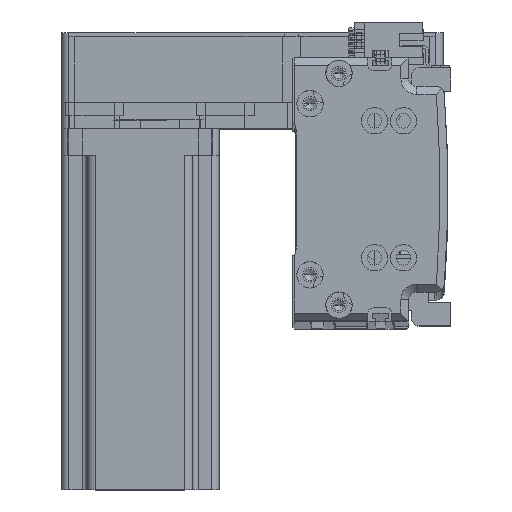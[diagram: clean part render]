
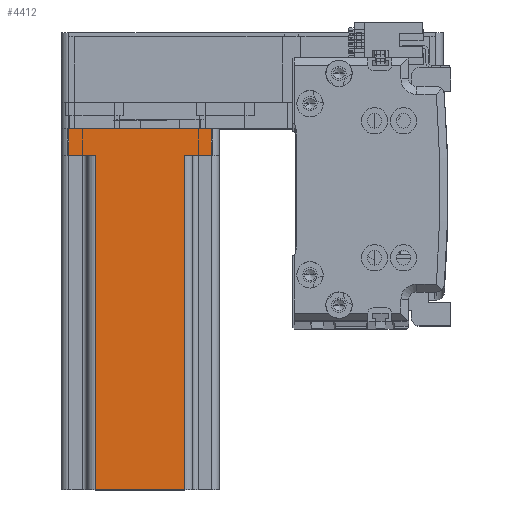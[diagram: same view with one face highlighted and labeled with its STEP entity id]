
A CAD part, top view. The second image highlights one B-rep face of the part: STEP entity #4412.
In plain terms, the highlighted planar face has unit normal (0, 0, 1) as drawn and (0, -1, 0) by its records, which use the part's own axes.
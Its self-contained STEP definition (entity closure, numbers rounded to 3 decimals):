
#763 = CARTESIAN_POINT ( 'NONE',  ( -17., -30., 137. ) ) ;
#2656 = EDGE_CURVE ( 'NONE', #44535, #52674, #14063, .T. ) ;
#4194 = VECTOR ( 'NONE', #46450, 1000. ) ;
#4412 = ADVANCED_FACE ( 'NONE', ( #44047 ), #26658, .F. ) ;
#4642 = VERTEX_POINT ( 'NONE', #53106 ) ;
#4732 = ORIENTED_EDGE ( 'NONE', *, *, #31838, .F. ) ;
#4760 = AXIS2_PLACEMENT_3D ( 'NONE', #51003, #22036, #55848 ) ;
#5074 = EDGE_CURVE ( 'NONE', #4642, #44535, #47665, .T. ) ;
#5661 = DIRECTION ( 'NONE',  ( 0., 0., -1. ) ) ;
#7653 = CARTESIAN_POINT ( 'NONE',  ( -20., -30., 10. ) ) ;
#8013 = LINE ( 'NONE', #40762, #29259 ) ;
#8069 = EDGE_CURVE ( 'NONE', #61329, #21873, #45069, .T. ) ;
#10505 = VECTOR ( 'NONE', #32473, 1000. ) ;
#11568 = ORIENTED_EDGE ( 'NONE', *, *, #55416, .T. ) ;
#11987 = ORIENTED_EDGE ( 'NONE', *, *, #24000, .T. ) ;
#12437 = VERTEX_POINT ( 'NONE', #50322 ) ;
#14063 = LINE ( 'NONE', #16575, #38249 ) ;
#15661 = LINE ( 'NONE', #7653, #4194 ) ;
#16368 = DIRECTION ( 'NONE',  ( 0., 0., 1. ) ) ;
#16575 = CARTESIAN_POINT ( 'NONE',  ( 27., -30., 137. ) ) ;
#16630 = ORIENTED_EDGE ( 'NONE', *, *, #8069, .T. ) ;
#18425 = ORIENTED_EDGE ( 'NONE', *, *, #2656, .T. ) ;
#19082 = VERTEX_POINT ( 'NONE', #29153 ) ;
#21751 = DIRECTION ( 'NONE',  ( -1., 0., 0. ) ) ;
#21873 = VERTEX_POINT ( 'NONE', #28386 ) ;
#22036 = DIRECTION ( 'NONE',  ( 0., 1., 0. ) ) ;
#22400 = DIRECTION ( 'NONE',  ( 0., 0., 1. ) ) ;
#23294 = LINE ( 'NONE', #36730, #34623 ) ;
#24000 = EDGE_CURVE ( 'NONE', #52674, #12437, #8013, .T. ) ;
#24012 = LINE ( 'NONE', #32421, #48259 ) ;
#26088 = ORIENTED_EDGE ( 'NONE', *, *, #5074, .T. ) ;
#26320 = CARTESIAN_POINT ( 'NONE',  ( -17., -30., 137. ) ) ;
#26658 = PLANE ( 'NONE',  #4760 ) ;
#28386 = CARTESIAN_POINT ( 'NONE',  ( -17., -30., 10. ) ) ;
#29153 = CARTESIAN_POINT ( 'NONE',  ( 17., -30., 137. ) ) ;
#29259 = VECTOR ( 'NONE', #21751, 1000. ) ;
#29828 = VERTEX_POINT ( 'NONE', #53189 ) ;
#31617 = CARTESIAN_POINT ( 'NONE',  ( 30., -30., 137. ) ) ;
#31838 = EDGE_CURVE ( 'NONE', #61329, #19082, #61820, .T. ) ;
#32421 = CARTESIAN_POINT ( 'NONE',  ( -27., -30., 137. ) ) ;
#32473 = DIRECTION ( 'NONE',  ( 1., 0., 0. ) ) ;
#34623 = VECTOR ( 'NONE', #22400, 1000. ) ;
#36070 = VECTOR ( 'NONE', #60643, 1000. ) ;
#36730 = CARTESIAN_POINT ( 'NONE',  ( 17., -30., 137. ) ) ;
#37563 = CARTESIAN_POINT ( 'NONE',  ( 30., -30., 0. ) ) ;
#38249 = VECTOR ( 'NONE', #16368, 1000. ) ;
#40762 = CARTESIAN_POINT ( 'NONE',  ( 20., -30., 10. ) ) ;
#42551 = DIRECTION ( 'NONE',  ( 0., 0., -1. ) ) ;
#44047 = FACE_OUTER_BOUND ( 'NONE', #47689, .T. ) ;
#44535 = VERTEX_POINT ( 'NONE', #51994 ) ;
#45069 = LINE ( 'NONE', #763, #57972 ) ;
#45127 = EDGE_CURVE ( 'NONE', #12437, #19082, #23294, .T. ) ;
#46450 = DIRECTION ( 'NONE',  ( 1., 0., 0. ) ) ;
#47665 = LINE ( 'NONE', #37563, #10505 ) ;
#47689 = EDGE_LOOP ( 'NONE', ( #4732, #16630, #58927, #11568, #26088, #18425, #11987, #56395 ) ) ;
#48259 = VECTOR ( 'NONE', #42551, 1000. ) ;
#50322 = CARTESIAN_POINT ( 'NONE',  ( 17., -30., 10. ) ) ;
#51003 = CARTESIAN_POINT ( 'NONE',  ( 30., -30., 137. ) ) ;
#51994 = CARTESIAN_POINT ( 'NONE',  ( 27., -30., 0. ) ) ;
#52476 = EDGE_CURVE ( 'NONE', #29828, #21873, #15661, .T. ) ;
#52674 = VERTEX_POINT ( 'NONE', #57235 ) ;
#53106 = CARTESIAN_POINT ( 'NONE',  ( -27., -30., 0. ) ) ;
#53189 = CARTESIAN_POINT ( 'NONE',  ( -27., -30., 10. ) ) ;
#55416 = EDGE_CURVE ( 'NONE', #29828, #4642, #24012, .T. ) ;
#55848 = DIRECTION ( 'NONE',  ( -1., 0., 0. ) ) ;
#56395 = ORIENTED_EDGE ( 'NONE', *, *, #45127, .T. ) ;
#57235 = CARTESIAN_POINT ( 'NONE',  ( 27., -30., 10. ) ) ;
#57972 = VECTOR ( 'NONE', #5661, 1000. ) ;
#58927 = ORIENTED_EDGE ( 'NONE', *, *, #52476, .F. ) ;
#60643 = DIRECTION ( 'NONE',  ( 1., 0., 0. ) ) ;
#61329 = VERTEX_POINT ( 'NONE', #26320 ) ;
#61820 = LINE ( 'NONE', #31617, #36070 ) ;
